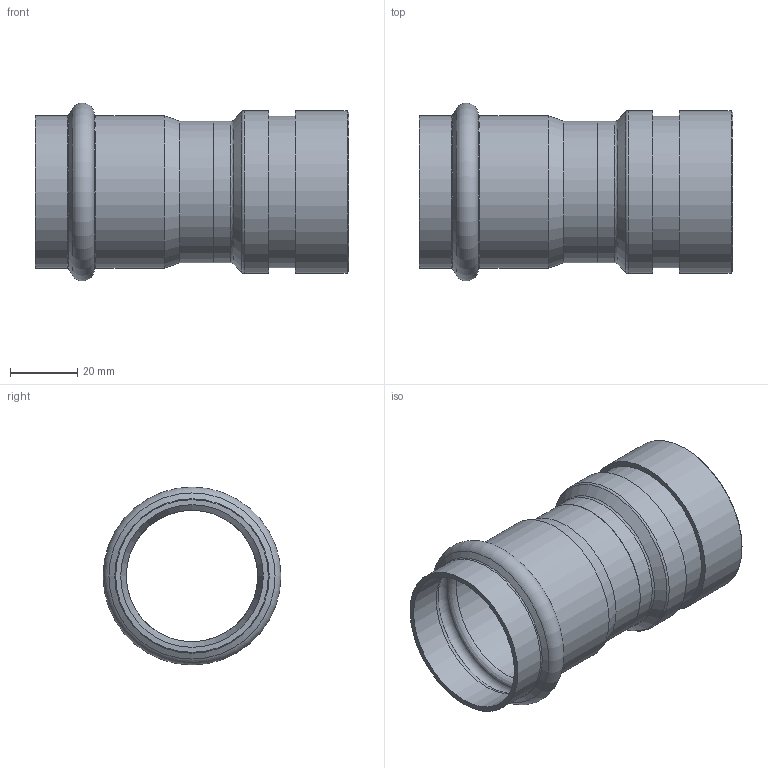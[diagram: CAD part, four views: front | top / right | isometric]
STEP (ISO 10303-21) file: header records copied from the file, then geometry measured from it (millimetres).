
FILE_DESCRIPTION((''),'2;1');
FILE_NAME('G:\Nirosan-Schmiedefeld\Technics\CAD\Bauteile VA\042\6925042483(0).stp','2012-05-18T12:01:51',('herberg'),(''),'Autodesk Inventor 2009','Autodesk Inventor 2009','');
FILE_SCHEMA(('AUTOMOTIVE_DESIGN { 1 0 10303 214 1 1 1 1 }'));
Length unit declared in the file: millimetre
Products named in the file (3): 6925042483(0); HM_6924342(2); sp42483(0)
Assembly tree (2 placements, depth 2):
  6925042483(0)
    HM_6924342(2)
    sp42483(0)
Bounding box: 93 x 52.8 x 52.8 mm (x, y, z)
Volume: 28584.7 mm3; surface area: 28400.3 mm2
Topology: 2 solids, 2 shells, 36 faces, 68 edges, 38 vertices
Faces by surface type: cylinder 12, cone 8, bspline 6, plane 6, torus 4
Full cylindrical faces by diameter (mm): 39 x2, 40.94 x1, 42 x2, 42.3 x2, 45.09 x1, 45.3 x2, 48.3 x2
Entity records: 1061 total; most frequent: CARTESIAN_POINT 377, DIRECTION 142, ORIENTED_EDGE 72, EDGE_LOOP 72, AXIS2_PLACEMENT_3D 71, VERTEX_POINT 36, CIRCLE 36, EDGE_CURVE 36
